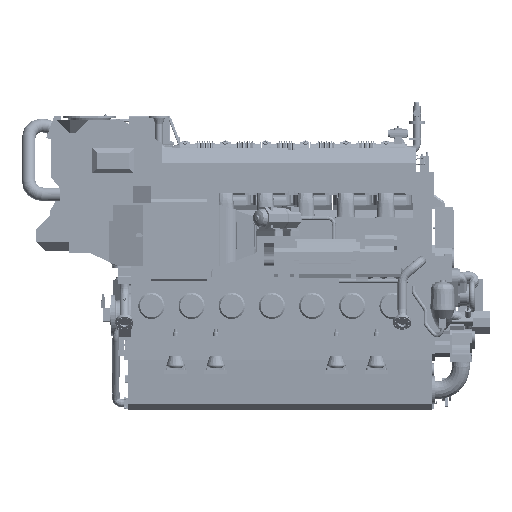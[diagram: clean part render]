
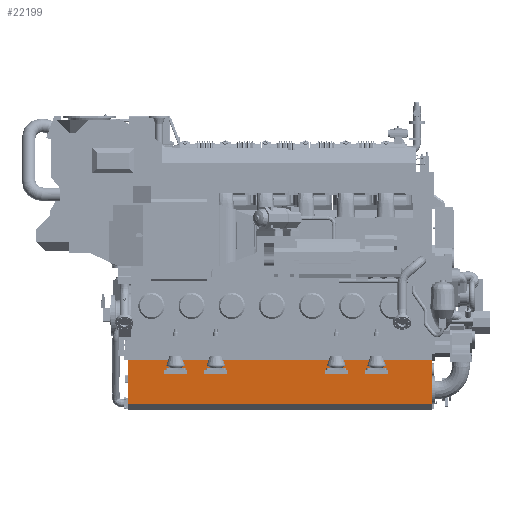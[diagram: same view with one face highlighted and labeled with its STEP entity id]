
A CAD part, front view. The second image highlights one B-rep face of the part: STEP entity #22199.
In plain terms, the highlighted planar face has unit normal (0, -0.999, -0.052).
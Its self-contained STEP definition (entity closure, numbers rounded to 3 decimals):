
#14570=FACE_OUTER_BOUND('',#65893,.T.);
#22199=ADVANCED_FACE('',(#14570),#30101,.F.);
#30101=PLANE('',#155057);
#37306=LINE('',#263182,#50355);
#37320=LINE('',#263217,#50369);
#37330=LINE('',#263242,#50379);
#37331=LINE('',#263244,#50380);
#50355=VECTOR('',#174923,1.);
#50369=VECTOR('',#174945,1.);
#50379=VECTOR('',#174967,1.);
#50380=VECTOR('',#174970,1.);
#65893=EDGE_LOOP('',(#83726,#83727,#83728,#83729));
#83726=ORIENTED_EDGE('',*,*,#132640,.T.);
#83727=ORIENTED_EDGE('',*,*,#132654,.F.);
#83728=ORIENTED_EDGE('',*,*,#132623,.F.);
#83729=ORIENTED_EDGE('',*,*,#132653,.T.);
#117582=VERTEX_POINT('',#263181);
#117583=VERTEX_POINT('',#263183);
#117599=VERTEX_POINT('',#263216);
#117600=VERTEX_POINT('',#263218);
#132623=EDGE_CURVE('',#117582,#117583,#37306,.T.);
#132640=EDGE_CURVE('',#117600,#117599,#37320,.T.);
#132653=EDGE_CURVE('',#117582,#117600,#37330,.T.);
#132654=EDGE_CURVE('',#117583,#117599,#37331,.T.);
#155057=AXIS2_PLACEMENT_3D('',#263245,#174971,#174972);
#174923=DIRECTION('',(0.,-0.052,0.999));
#174945=DIRECTION('',(0.,-0.052,0.999));
#174967=DIRECTION('',(1.,0.,0.));
#174970=DIRECTION('',(1.,0.,0.));
#174971=DIRECTION('',(0.,0.999,0.052));
#174972=DIRECTION('',(0.,-0.052,0.999));
#263181=CARTESIAN_POINT('',(-3710.,-412.339,-1079.568));
#263182=CARTESIAN_POINT('',(-3710.,-412.339,-1079.568));
#263183=CARTESIAN_POINT('',(-3710.,-440.25,-545.));
#263216=CARTESIAN_POINT('',(0.,-440.25,-545.));
#263217=CARTESIAN_POINT('',(0.,-412.339,-1079.568));
#263218=CARTESIAN_POINT('',(0.,-412.339,-1079.568));
#263242=CARTESIAN_POINT('',(-3710.,-412.339,-1079.568));
#263244=CARTESIAN_POINT('',(-3710.,-440.25,-545.));
#263245=CARTESIAN_POINT('',(-3710.,-412.339,-1079.568));
